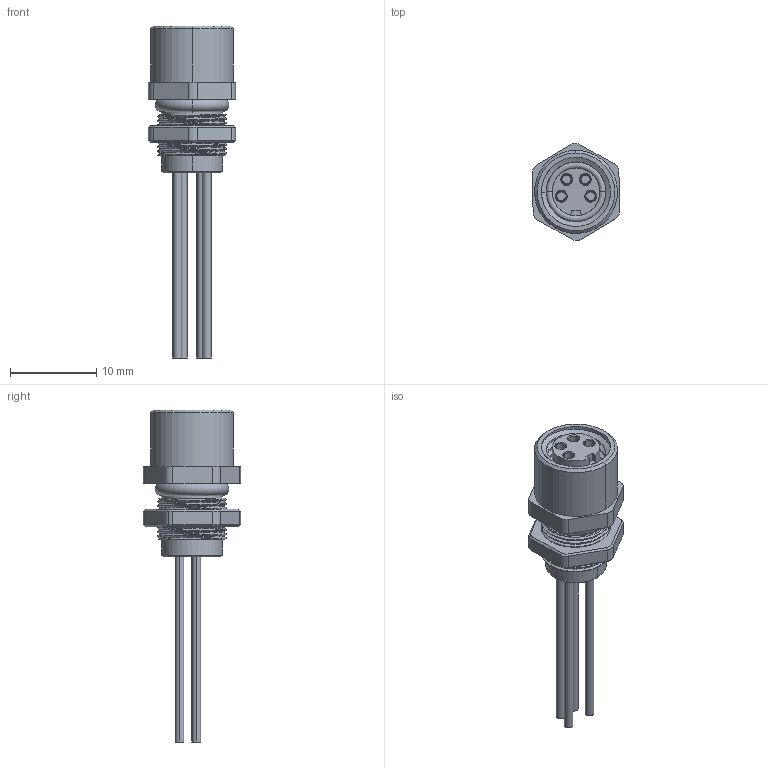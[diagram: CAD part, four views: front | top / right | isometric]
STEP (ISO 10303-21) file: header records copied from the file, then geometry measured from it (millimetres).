
FILE_DESCRIPTION (( 'STEP AP203' ), '1' );
FILE_NAME ('63SA42-XXX.STEP', '2023-10-26T05:43:26', ( 'ADMIN' ), ( '' ), 'SwSTEP 2.0', 'SolidWorks 2016', '' );
FILE_SCHEMA (( 'CONFIG_CONTROL_DESIGN' ));
Length unit declared in the file: millimetre
Products named in the file (1): 63SA42-XXX
Bounding box: 10.07 x 11.24 x 38.4 mm (x, y, z)
Volume: 1027.8 mm3; surface area: 1968.7 mm2
Topology: 1 solids, 30 shells, 417 faces, 1014 edges, 645 vertices
Faces by surface type: cylinder 185, plane 134, cone 78, torus 10, bspline 10
Entity records: 17041 total; most frequent: CARTESIAN_POINT 7022, DIRECTION 2176, ORIENTED_EDGE 2028, EDGE_CURVE 1014, AXIS2_PLACEMENT_3D 865, VERTEX_POINT 645, EDGE_LOOP 467, CIRCLE 457
